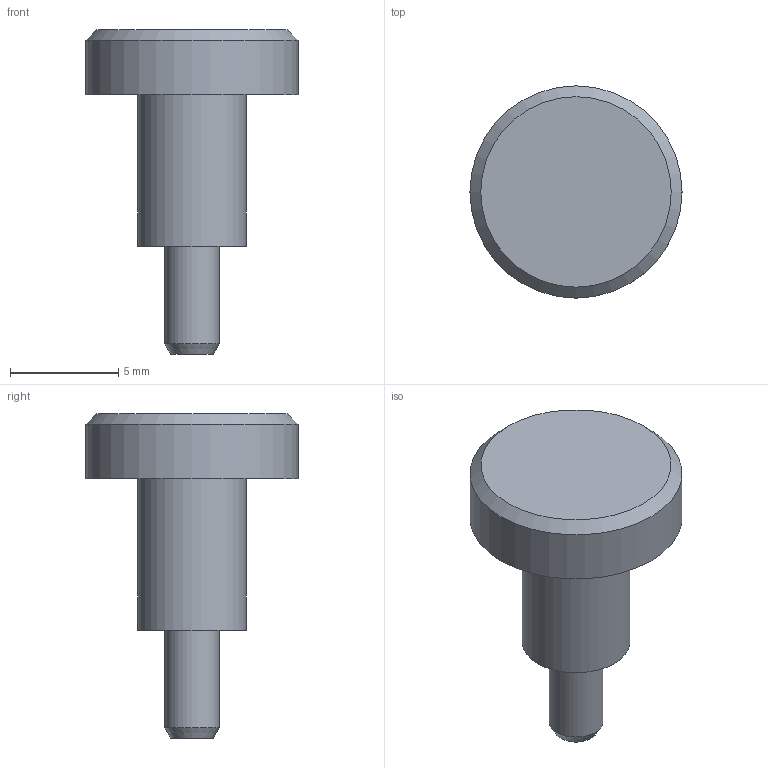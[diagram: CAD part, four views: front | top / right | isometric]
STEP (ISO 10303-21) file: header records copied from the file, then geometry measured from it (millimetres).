
FILE_DESCRIPTION(/* description */ (''),/* implementation_level */ '2;1');
FILE_NAME(/* name */ 'C:\Local Work Area\Progetti\AP\CALIBRI\44X.XX PUNTALI\440.30.stp',/* time_stamp */ '2022-01-11T12:07:47+01:00',/* author */ ('CAD5'),/* organization */ (''),/* preprocessor_version */ 'ST-DEVELOPER v18.1',/* originating_system */ 'Autodesk Inventor 2021',/* authorisation */ '');
FILE_SCHEMA (('AUTOMOTIVE_DESIGN { 1 0 10303 214 3 1 1 }'));
Length unit declared in the file: millimetre
Products named in the file (3): 440.30; 440.31; UNI 5923 - M2.5 x 10
Assembly tree (2 placements, depth 2):
  440.30
    440.31
    UNI 5923 - M2.5 x 10
Bounding box: 9.8 x 9.8 x 15 mm (x, y, z)
Volume: 380.1 mm3; surface area: 485.6 mm2
Topology: 2 solids, 2 shells, 20 faces, 44 edges, 29 vertices
Faces by surface type: plane 11, cone 5, cylinder 4
Full cylindrical faces by diameter (mm): 2.013 x1, 2.5 x1, 5 x1, 9.8 x1
Entity records: 661 total; most frequent: CARTESIAN_POINT 110, DIRECTION 99, ORIENTED_EDGE 84, EDGE_CURVE 42, AXIS2_PLACEMENT_3D 39, VERTEX_POINT 29, EDGE_LOOP 23, LINE 21
